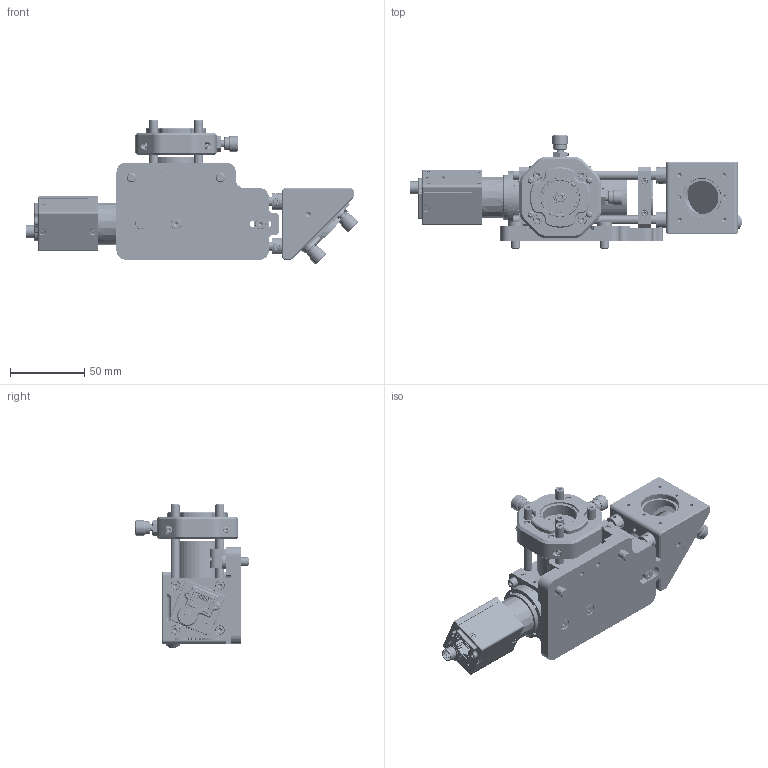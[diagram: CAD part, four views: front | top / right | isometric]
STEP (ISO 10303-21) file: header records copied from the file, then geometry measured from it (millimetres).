
FILE_DESCRIPTION (( 'STEP AP214' ), '1' );
FILE_NAME ('2024-06 - TELESCOPE FULL ASSY.STEP', '2024-11-19T10:23:15', ( '' ), ( '' ), 'SwSTEP 2.0', 'SolidWorks 2025', '' );
FILE_SCHEMA (( 'AUTOMOTIVE_DESIGN' ));
Length unit declared in the file: millimetre
Products named in the file (24): CP02B; CCM1-BS013_M; SM1SMA; 2023-29 - 15mm pinhole; DIN 912 M4 x 10 --- 10N_DIN 912 M4 x 10 --- 10N; SM1RR; SM1A39; mer2_poe_user_a1.0.3.step; 2023-27 - EMISSION TELESCOPE; DIN 912 M4 x 6 --- 6N_DIN 912 M4 x 6 --- 6N; CRM1_M; ER05; KCB1E_M; CXY1A; DIN 912 M6 x 12 --- 12N_DIN 912 M6 x 12 --- 12N; AC254-100-A; 2024-07 - TELESCOPE BASEPLATE; SM1CP2; 2024-06 - TELESCOPE FULL ASSY; ER2; SM1L10; BBE1-E02; CP33_M; ERSCB
Assembly tree (41 placements, depth 3):
  2024-06 - TELESCOPE FULL ASSY
    2023-27 - EMISSION TELESCOPE
      CCM1-BS013_M
      CRM1_M
      SM1A39
      mer2_poe_user_a1.0.3.step
      ER05  x4
      SM1SMA
      CXY1A
      ER2  x8
      SM1L10  x2
      SM1CP2
      2023-29 - 15mm pinhole
      CP33_M
      SM1RR
      AC254-100-A
    BBE1-E02
    ERSCB  x4
    KCB1E_M
    CP02B
    2024-07 - TELESCOPE BASEPLATE
    DIN 912 M4 x 10 --- 10N_DIN 912 M4 x 10 --- 10N  x2
    DIN 912 M4 x 6 --- 6N_DIN 912 M4 x 6 --- 6N  x3
    DIN 912 M6 x 12 --- 12N_DIN 912 M6 x 12 --- 12N  x2
Bounding box: 223.01 x 75.91 x 96.85 mm (x, y, z)
Volume: 259830.9 mm3; surface area: 177699.7 mm2
Topology: 171 solids, 175 shells, 11964 faces, 31060 edges, 19833 vertices
Faces by surface type: plane 5279, cylinder 2536, bspline 2134, cone 1840, torus 99, sphere 76
Entity records: 458404 total; most frequent: CARTESIAN_POINT 205485, ORIENTED_EDGE 56430, DIRECTION 45043, EDGE_CURVE 28215, VERTEX_POINT 18250, VECTOR 15189, LINE 15189, AXIS2_PLACEMENT_3D 14927
